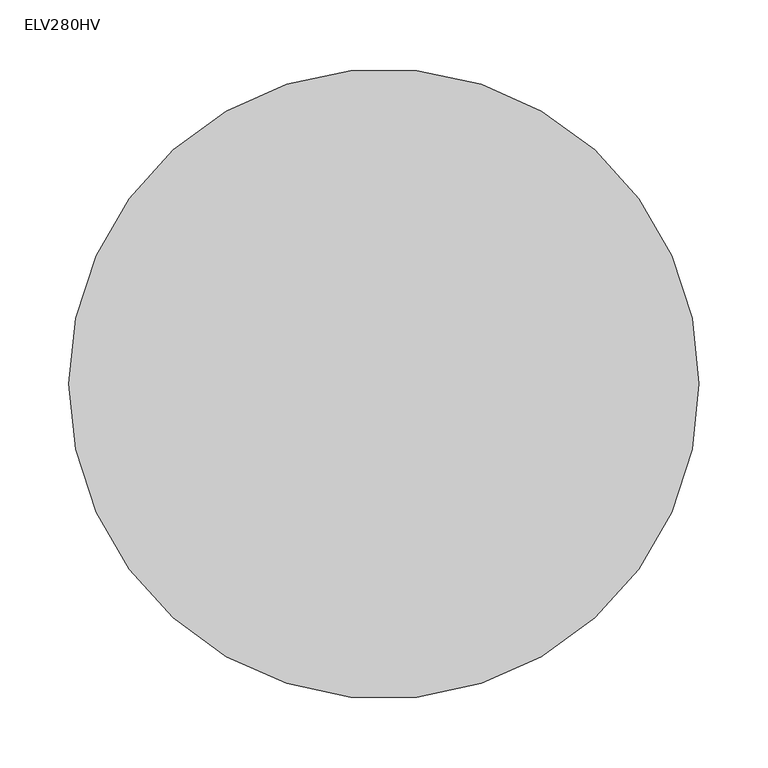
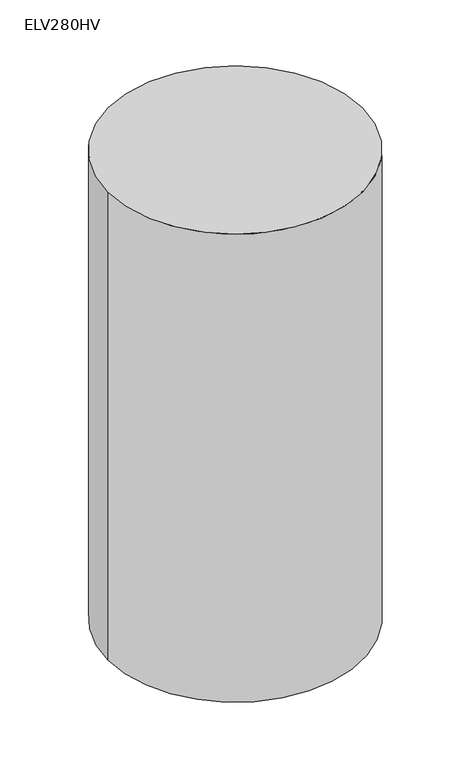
"""IFC4 building model written with IfcOpenShell, lengths in millimetres: proxy geometry, Pump-Sump-Liberty-ELV_Series : ELV280HV."""

from ifc_helpers import new_model, si_unit, point, frame, frame_2d, origin, origin_with_axes, place, context, project, spatial, polyline, circle_curve, trimmed, segment, composite_curve, outline, extrude, source, transform, mapped, element, save
from ifc_brep_helpers import plane_surface, revolved_surface, advanced_brep


def elv280hv_71b66f3c(model_context):
    return source(origin(), model_context, "Body", "SolidModel", [
        extrude(outline(composite_curve([segment(trimmed(circle_curve(frame_2d((-0.0176288, 0.0088555)), 78.7952259), [point((22.9189747, 75.3918764))], [point((-0.0176288, 78.8040814))], True, "CARTESIAN"), True, "CONTINUOUS"), segment(polyline([(-0.0176288, 78.8040814), (-0.0176288, 84.9909044)]), True, "CONTINUOUS"), segment(trimmed(circle_curve(frame_2d((-0.0176288, 0.0088555)), 84.9820489), [point((-0.0176288, 84.9909044))], [point((24.7199049, 81.3107808))], False, "CARTESIAN"), True, "CONTINUOUS"), segment(polyline([(24.7199049, 81.3107808), (22.9189747, 75.3918764)]), True, "CONTINUOUS")], self_intersect=False)), origin_with_axes(), (0.0, 0.0, 1.0), 80.7646107),
        extrude(outline(composite_curve([segment(trimmed(circle_curve(frame_2d((-0.0176288, 0.0088555)), 78.7952259), [point((-71.3857142, -33.3870128))], [point((-58.5738932, -52.7154418))], True, "CARTESIAN"), True, "CONTINUOUS"), segment(polyline([(-58.5738932, -52.7154418), (-63.1715987, -56.8552344)]), True, "CONTINUOUS"), segment(trimmed(circle_curve(frame_2d((-0.0176288, 0.0088555)), 84.9820489), [point((-63.1715987, -56.8552344))], [point((-76.9893749, -36.0091809))], False, "CARTESIAN"), True, "CONTINUOUS"), segment(polyline([(-76.9893749, -36.0091809), (-71.3857142, -33.3870128)]), True, "CONTINUOUS")], self_intersect=False)), origin_with_axes(), (0.0, 0.0, 1.0), 80.7646107),
        extrude(outline(composite_curve([segment(trimmed(circle_curve(frame_2d((128.5698712, -98.7101568)), 2.286), [point((130.8558712, -98.7101568))], [point((126.2838712, -98.7101568))], False, "CARTESIAN"), True, "CONTINUOUS"), segment(trimmed(circle_curve(frame_2d((128.5698712, -98.7101568)), 2.286), [point((126.2838712, -98.7101568))], [point((130.8558712, -98.7101568))], False, "CARTESIAN"), True, "CONTINUOUS")], self_intersect=False)), frame((0.0, 0.0, 344.106868), z_axis=(0.0, 0.0, 1.0), x_axis=(1.0, 0.0, 0.0)), (0.0, 0.0, 1.0), 196.3146856),
        extrude(outline(composite_curve([segment(trimmed(circle_curve(frame_2d((95.2323712, -103.3954368)), 2.286), [point((97.5183712, -103.3954368))], [point((92.9463712, -103.3954368))], False, "CARTESIAN"), True, "CONTINUOUS"), segment(trimmed(circle_curve(frame_2d((95.2323712, -103.3954368)), 2.286), [point((92.9463712, -103.3954368))], [point((97.5183712, -103.3954368))], False, "CARTESIAN"), True, "CONTINUOUS")], self_intersect=False)), frame((0.0, 0.0, 503.74544), z_axis=(0.0, 0.0, 1.0), x_axis=(1.0, 0.0, 0.0)), (0.0, 0.0, 1.0), 36.6761136),
        extrude(outline(composite_curve([segment(trimmed(circle_curve(frame_2d((63.4823712, -107.8576083)), 2.286), [point((65.7683712, -107.8576083))], [point((61.1963712, -107.8576083))], False, "CARTESIAN"), True, "CONTINUOUS"), segment(trimmed(circle_curve(frame_2d((63.4823712, -107.8576083)), 2.286), [point((61.1963712, -107.8576083))], [point((65.7683712, -107.8576083))], False, "CARTESIAN"), True, "CONTINUOUS")], self_intersect=False)), frame((0.0, 0.0, 511.6333665), z_axis=(0.0, 0.0, 1.0), x_axis=(1.0, 0.0, 0.0)), (0.0, 0.0, 1.0), 28.7881872),
        extrude(outline(composite_curve([segment(trimmed(circle_curve(frame_2d((63.4823712, -107.8576083)), 10.16), [point((63.4823712, -118.0176083))], [point((63.4823712, -97.6976083))], False, "CARTESIAN"), True, "CONTINUOUS"), segment(trimmed(circle_curve(frame_2d((63.4823712, -107.8576083)), 10.16), [point((63.4823712, -97.6976083))], [point((63.4823712, -118.0176083))], False, "CARTESIAN"), True, "CONTINUOUS")], self_intersect=False)), frame((0.0, 0.0, 540.4215536), z_axis=(0.0, 0.0, 1.0), x_axis=(1.0, 0.0, 0.0)), (0.0, 0.0, 1.0), 22.3007896),
        extrude(outline(composite_curve([segment(trimmed(circle_curve(frame_2d((95.2323712, -103.3954368)), 10.16), [point((95.2323712, -113.5554368))], [point((95.2323712, -93.2354368))], False, "CARTESIAN"), True, "CONTINUOUS"), segment(trimmed(circle_curve(frame_2d((95.2323712, -103.3954368)), 10.16), [point((95.2323712, -93.2354368))], [point((95.2323712, -113.5554368))], False, "CARTESIAN"), True, "CONTINUOUS")], self_intersect=False)), frame((0.0, 0.0, 540.4215536), z_axis=(0.0, 0.0, 1.0), x_axis=(1.0, 0.0, 0.0)), (0.0, 0.0, 1.0), 22.3007896),
        extrude(outline(composite_curve([segment(trimmed(circle_curve(frame_2d((128.5698712, -98.7101568)), 10.16), [point((128.5698712, -108.8701568))], [point((128.5698712, -88.5501568))], False, "CARTESIAN"), True, "CONTINUOUS"), segment(trimmed(circle_curve(frame_2d((128.5698712, -98.7101568)), 10.16), [point((128.5698712, -88.5501568))], [point((128.5698712, -108.8701568))], False, "CARTESIAN"), True, "CONTINUOUS")], self_intersect=False)), frame((0.0, 0.0, 540.4215536), z_axis=(0.0, 0.0, 1.0), x_axis=(1.0, 0.0, 0.0)), (0.0, 0.0, 1.0), 22.3007896),
        extrude(outline(polyline([(46.8100368, -129.4379674), (41.5075416, -91.708754), (150.6979988, -76.363036), (156.000494, -114.0922494), (46.8100368, -129.4379674)])), frame((0.0, 0.0, 562.7223432), z_axis=(0.0, 0.0, 1.0), x_axis=(1.0, 0.0, 0.0)), (0.0, 0.0, 1.0), 75.2691681),
        extrude(outline(composite_curve([segment(trimmed(circle_curve(frame_2d((88.8823712, -52.0497394)), 25.4), [point((63.4823712, -52.0497394))], [point((114.2823712, -52.0497394))], False, "CARTESIAN"), True, "CONTINUOUS"), segment(trimmed(circle_curve(frame_2d((88.8823712, -52.0497394)), 25.4), [point((114.2823712, -52.0497394))], [point((63.4823712, -52.0497394))], False, "CARTESIAN"), True, "CONTINUOUS")], self_intersect=False)), frame((0.0, 0.0, 87.8333863), z_axis=(0.0, 0.0, 1.0), x_axis=(1.0, 0.0, 0.0)), (0.0, 0.0, 1.0), 550.1581251),
        advanced_brep(
        [(56.6243712, -52.0497394, 87.8333863), (121.1403712, -52.0497394, 87.8333863), (81.0083712, -52.0497394, 0.0), (96.7563712, -52.0497394, 0.0)],
        [
            (0, 1, circle_curve(frame((88.8823712, -52.0497394, 87.8333863), z_axis=(0.0, 0.0, 1.0), x_axis=(-1.0, 0.0, 0.0)), 32.258)),
            (1, 0, circle_curve(frame((88.8823712, -52.0497394, 87.8333863), z_axis=(0.0, 0.0, 1.0), x_axis=(1.0, 0.0, 0.0)), 32.258)),
            (2, 3, circle_curve(frame((88.8823712, -52.0497394, 0.0), z_axis=(0.0, 0.0, -1.0), x_axis=(1.0, 0.0, 0.0)), 7.874)),
            (3, 2, circle_curve(frame((88.8823712, -52.0497394, 0.0), z_axis=(0.0, 0.0, -1.0), x_axis=(-1.0, 0.0, 0.0)), 7.874)),
            (3, 1),
            (0, 2),
        ],
        [
            plane_surface(frame((88.8823712, -52.0497394, 87.8333863), z_axis=(0.0, 0.0, 1.0), x_axis=(0.0, -1.0, 0.0))),
            plane_surface(frame((88.8823712, -52.0497394, 0.0), z_axis=(0.0, 0.0, -1.0), x_axis=(0.0, -1.0, 0.0))),
            revolved_surface(polyline([(96.7563711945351, -52.0497394, 0.0), (121.1403712, -52.0497394, 87.8333863)]), (88.8823712, -52.0497394, -28.3628643), (0.0, 0.0, 1.0)),
            revolved_surface(polyline([(81.00837120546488, -52.0497394, 0.0), (56.6243712, -52.0497394, 87.8333863)]), (88.8823712, -52.0497394, -28.3628643), (0.0, 0.0, 1.0)),
        ],
        [
            (0, [[1, 2]]),
            (1, [[3, 4]]),
            (2, [[-4, 5, -1, 6]]),
            (3, [[-3, -6, -2, -5]]),
        ],
    ),
        extrude(outline(composite_curve([segment(trimmed(circle_curve(frame_2d((-0.0176288, 0.0088555)), 71.374), [point((-71.3916288, 0.0088555))], [point((71.3563712, 0.0088555))], False, "CARTESIAN"), True, "CONTINUOUS"), segment(trimmed(circle_curve(frame_2d((-0.0176288, 0.0088555)), 71.374), [point((71.3563712, 0.0088555))], [point((-71.3916288, 0.0088555))], False, "CARTESIAN"), True, "CONTINUOUS")], self_intersect=False)), frame((0.0, 0.0, 269.8843209), z_axis=(0.0, 0.0, 1.0), x_axis=(1.0, 0.0, 0.0)), (0.0, 0.0, 1.0), 25.5971226),
        extrude(outline(composite_curve([segment(trimmed(circle_curve(frame_2d((-0.0176288, 0.0088555)), 66.04), [point((-66.0576288, 0.0088555))], [point((66.0223712, 0.0088555))], False, "CARTESIAN"), True, "CONTINUOUS"), segment(trimmed(circle_curve(frame_2d((-0.0176288, 0.0088555)), 66.04), [point((66.0223712, 0.0088555))], [point((-66.0576288, 0.0088555))], False, "CARTESIAN"), True, "CONTINUOUS")], self_intersect=False)), frame((0.0, 0.0, 80.7646107), z_axis=(0.0, 0.0, 1.0), x_axis=(1.0, 0.0, 0.0)), (0.0, 0.0, 1.0), 189.1197102),
        extrude(outline(composite_curve([segment(trimmed(circle_curve(frame_2d((-0.0176288, 0.0088555)), 78.7952259), [point((-78.8128547, 0.0088555))], [point((78.7775971, 0.0088555))], False, "CARTESIAN"), True, "CONTINUOUS"), segment(trimmed(circle_curve(frame_2d((-0.0176288, 0.0088555)), 78.7952259), [point((78.7775971, 0.0088555))], [point((-78.8128547, 0.0088555))], False, "CARTESIAN"), True, "CONTINUOUS")], self_intersect=False)), frame((0.0, 0.0, 33.7458332), z_axis=(0.0, 0.0, 1.0), x_axis=(1.0, 0.0, 0.0)), (0.0, 0.0, 1.0), 47.0187775),
        extrude(outline(composite_curve([segment(trimmed(circle_curve(frame_2d((-1.6051288, -66.0194271)), 228.6), [point((226.9948712, -66.0194271))], [point((-230.2051288, -66.0194271))], False, "CARTESIAN"), True, "CONTINUOUS"), segment(trimmed(circle_curve(frame_2d((-1.6051288, -66.0194271)), 228.6), [point((-230.2051288, -66.0194271))], [point((226.9948712, -66.0194271))], False, "CARTESIAN"), True, "CONTINUOUS")], self_intersect=False)), origin_with_axes(), (0.0, 0.0, 1.0), 889.0),
    ])


if __name__ == "__main__":
    model = new_model("IFC4")
    model_context = context("Model", 3, world=origin())
    ifc_project = project(units=[si_unit("LENGTHUNIT", "METRE", prefix="MILLI")], contexts=[model_context])
    site = spatial("IfcSite", under=ifc_project)
    building = spatial("IfcBuilding", under=site)
    placement = place(None, origin())
    elv280hv_shape = elv280hv_71b66f3c(model_context)
    element("IfcBuildingElementProxy", 1, Name="Pump-Sump-Liberty-ELV_Series : ELV280HV", ObjectType="Pump-Sump-Liberty-ELV_Series : ELV280HV", at=placement, inside=building, context=model_context, shape_type="MappedRepresentation", body=[
        mapped(elv280hv_shape, transform((0.0, 0.0, 0.0), x_axis=(1.0, 0.0, 0.0), y_axis=(0.0, 1.0, 0.0), z_axis=(0.0, 0.0, 1.0))),
    ])
    save(model, "model.ifc")
